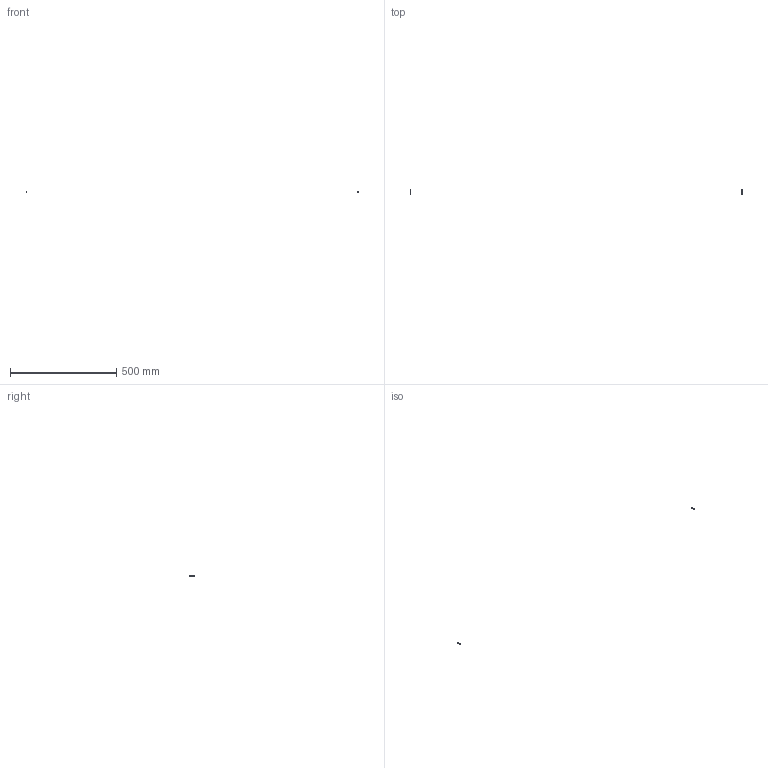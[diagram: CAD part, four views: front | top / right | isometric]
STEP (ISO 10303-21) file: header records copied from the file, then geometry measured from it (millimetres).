
FILE_DESCRIPTION(/* description */ (''),/* implementation_level */ '2;1');
FILE_NAME(/* name */ 'FRB90E~1',/* time_stamp */ '2014-02-14T19:36:39+01:00',/* author */ (''),/* organization */ (''),/* preprocessor_version */ 'ST-DEVELOPER v14',/* originating_system */ '',/* authorisation */ '');
FILE_SCHEMA (('AUTOMOTIVE_DESIGN'));
Length unit declared in the file: millimetre
Products named in the file (2): Document; washer DIN125-like, form A, M3
Assembly tree (4 placements, depth 2):
  Document
    washer DIN125-like, form A, M3  x4
Bounding box: 1564 x 20.02 x 5.99 mm (x, y, z)
Surface area: 440 mm2 (no closed solid volume)
Topology: 0 solids, 48 shells, 48 faces, 160 edges, 160 vertices
Faces by surface type: bspline 32, plane 16
Entity records: 2543 total; most frequent: CARTESIAN_POINT 1277, B_SPLINE_CURVE_WITH_KNOTS 120, ORIENTED_EDGE 100, PCURVE 100, DEFINITIONAL_REPRESENTATION 100, SURFACE_CURVE 100, EDGE_CURVE 100, VERTEX_POINT 100
